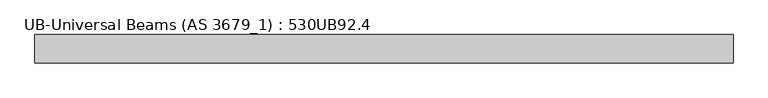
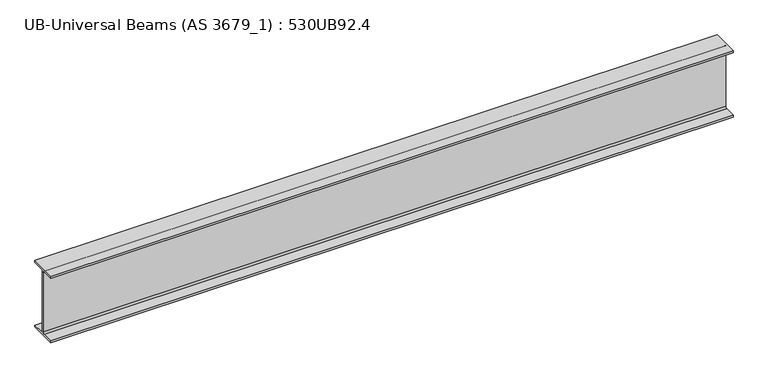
"""IFC4 building model written with IfcOpenShell, lengths in millimetres: beam geometry, UB-Universal Beams (AS 3679_1) : 530UB92.4."""

from ifc_helpers import new_model, si_unit, point, frame, frame_2d, origin, place, context, project, spatial, polyline, circle_curve, trimmed, segment, composite_curve, outline, extrude, source, transform, mapped, element, save


def ub_universal_beams_as_3679_1_530ub92_4_2ab20e32(model_context):
    return source(origin(), model_context, "Body", "SweptSolid", [
        extrude(outline(composite_curve([segment(polyline([(104.5, -250.9), (104.5, -266.5), (-104.5, -266.5), (-104.5, -250.9), (-19.1, -250.9)]), True, "CONTINUOUS"), segment(trimmed(circle_curve(frame_2d((-19.1, -236.9)), 14.0), [point((-19.1, -250.9))], [point((-5.1, -236.9))], True, "CARTESIAN"), True, "CONTINUOUS"), segment(polyline([(-5.1, -236.9), (-5.1, 236.9)]), True, "CONTINUOUS"), segment(trimmed(circle_curve(frame_2d((-19.1, 236.9)), 14.0), [point((-5.1, 236.9))], [point((-19.1, 250.9))], True, "CARTESIAN"), True, "CONTINUOUS"), segment(polyline([(-19.1, 250.9), (-104.5, 250.9), (-104.5, 266.5), (104.5, 266.5), (104.5, 250.9), (19.1, 250.9)]), True, "CONTINUOUS"), segment(trimmed(circle_curve(frame_2d((19.1, 236.9)), 14.0), [point((19.1, 250.9))], [point((5.1, 236.9))], True, "CARTESIAN"), True, "CONTINUOUS"), segment(polyline([(5.1, 236.9), (5.1, -236.9)]), True, "CONTINUOUS"), segment(trimmed(circle_curve(frame_2d((19.1, -236.9)), 14.0), [point((5.1, -236.9))], [point((19.1, -250.9))], True, "CARTESIAN"), True, "CONTINUOUS"), segment(polyline([(19.1, -250.9), (104.5, -250.9)]), True, "CONTINUOUS")], self_intersect=False)), frame((-2473.6, 0.0, 0.0), z_axis=(1.0, 0.0, 0.0), x_axis=(0.0, 1.0, 0.0)), (0.0, 0.0, 1.0), 5161.1),
    ])


if __name__ == "__main__":
    model = new_model("IFC4")
    model_context = context("Model", 3, world=origin())
    ifc_project = project(units=[si_unit("LENGTHUNIT", "METRE", prefix="MILLI")], contexts=[model_context])
    site = spatial("IfcSite", under=ifc_project)
    building = spatial("IfcBuilding", under=site)
    placement = place(None, origin())
    ub_universal_beams_as_3679_1_530ub92_4_shape = ub_universal_beams_as_3679_1_530ub92_4_2ab20e32(model_context)
    element("IfcBeam", 1, ObjectType="UB-Universal Beams (AS 3679_1) : 530UB92.4", at=placement, inside=building, context=model_context, shape_type="MappedRepresentation", body=[
        mapped(ub_universal_beams_as_3679_1_530ub92_4_shape, transform((0.0, 0.0, 0.0), x_axis=(1.0, 0.0, 0.0), y_axis=(0.0, 1.0, 0.0), z_axis=(0.0, 0.0, 1.0))),
    ])
    save(model, "model.ifc")
